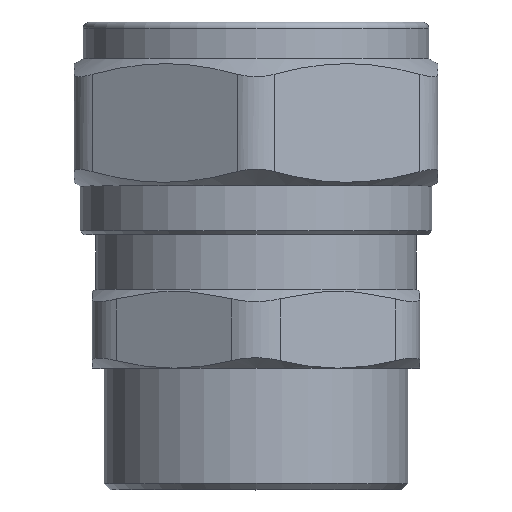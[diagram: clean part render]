
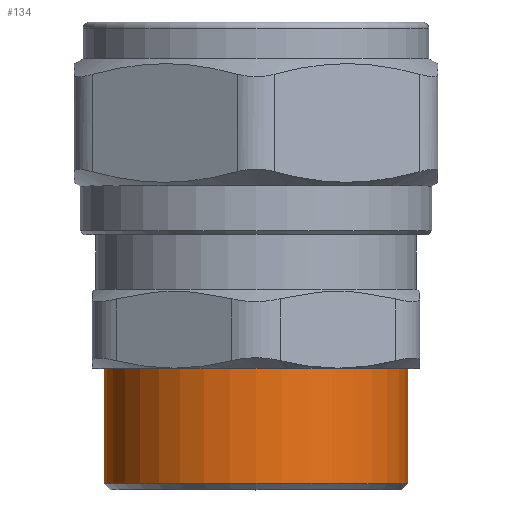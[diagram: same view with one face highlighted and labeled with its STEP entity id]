
A CAD part, top view. The second image highlights one B-rep face of the part: STEP entity #134.
In plain terms, the highlighted cylindrical face has radius 12.5 mm (diameter 25 mm), a full revolution.
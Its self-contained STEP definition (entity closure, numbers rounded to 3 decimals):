
#134=ADVANCED_FACE('',(#994,#996),#998,.T.);
#994=FACE_OUTER_BOUND('',#995,.T.);
#995=EDGE_LOOP('',(#3046));
#996=FACE_OUTER_BOUND('',#997,.T.);
#997=EDGE_LOOP('',(#3047));
#998=CYLINDRICAL_SURFACE('',#999,12.5);
#999=AXIS2_PLACEMENT_3D('',#1000,#1001,#1002);
#1000=CARTESIAN_POINT('',(0.,0.,0.));
#1001=DIRECTION('',(0.,1.,0.));
#1002=DIRECTION('',(-1.,0.,0.));
#3046=ORIENTED_EDGE('',*,*,#4598,.F.);
#3047=ORIENTED_EDGE('',*,*,#4768,.T.);
#4598=EDGE_CURVE('',#5511,#5511,#5512,.T.);
#4768=EDGE_CURVE('',#5851,#5851,#5852,.T.);
#5511=VERTEX_POINT('',#8613);
#5512=CIRCLE('',#8614,12.5);
#5851=VERTEX_POINT('',#9753);
#5852=CIRCLE('',#9754,12.5);
#8613=CARTESIAN_POINT('',(-12.5,10.,0.));
#8614=AXIS2_PLACEMENT_3D('',#8615,#8616,#8617);
#8615=CARTESIAN_POINT('',(0.,10.,0.));
#8616=DIRECTION('',(0.,1.,0.));
#8617=DIRECTION('',(-1.,0.,0.));
#9753=CARTESIAN_POINT('',(-12.5,0.5,0.));
#9754=AXIS2_PLACEMENT_3D('',#9755,#9756,#9757);
#9755=CARTESIAN_POINT('',(0.,0.5,0.));
#9756=DIRECTION('',(0.,1.,0.));
#9757=DIRECTION('',(-1.,0.,0.));
